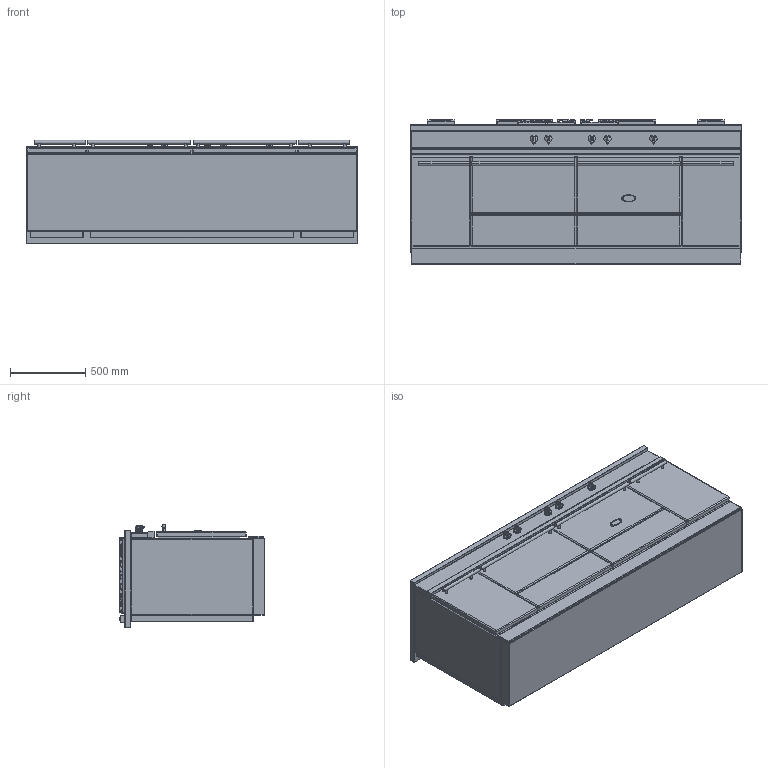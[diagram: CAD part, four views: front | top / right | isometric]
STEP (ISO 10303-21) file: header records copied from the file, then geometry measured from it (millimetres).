
FILE_DESCRIPTION((''),'2;1');
FILE_NAME('LMG2232_ASM','2022-04-13T11:57:26',('stagiaire'),(''),'CREO PARAMETRIC BY PTC INC, 2021424','CREO PARAMETRIC BY PTC INC, 2021424','');
FILE_SCHEMA(('AP203_CONFIGURATION_CONTROLLED_3D_DESIGN_OF_MECHANICAL_PARTS_AND_ASSEMBLIES_MIM_LF { 1 0 10303 403 2 1 2 }'));
Products named in the file (20): BASE_EXPORT_SULLY_LMG2232; 65049009; 65650001; 65064012; 19150009; 88064012_ASM; BASE_EXPORT_SULLY_LMG2232_ASM; TABLE_SULLY_2200_3_FEUX; 5KW; 1_5KW; 3KW; 6537025; 65149005; 90000488_ASM; 6537023; 90000565_ASM; CHEMINEE_2020_LG371_EXPORT_STEP; CHEMINEE_2020_LG182_EXPORT_STEP; TABLE_SULLY_2200_3_FEUX_ASM; LMG2232_ASM
Assembly tree (33 placements, depth 4):
  LMG2232_ASM
    BASE_EXPORT_SULLY_LMG2232_ASM
      BASE_EXPORT_SULLY_LMG2232
      65049009
      65650001
      88064012_ASM  x5
        65064012
        19150009
    TABLE_SULLY_2200_3_FEUX_ASM
      TABLE_SULLY_2200_3_FEUX
      5KW
      1_5KW
      3KW
      90000488_ASM  x2
        6537025
        65149005
      90000565_ASM
        6537023
        65149005  x4
      CHEMINEE_2020_LG371_EXPORT_STEP  x2
      CHEMINEE_2020_LG182_EXPORT_STEP  x2
Bounding box: 2205 x 965 x 688.5 mm (x, y, z)
Volume: 1185973128 mm3; surface area: 16445900.4 mm2
Topology: 40 solids, 40 shells, 5081 faces, 14230 edges, 9115 vertices
Faces by surface type: cylinder 1839, plane 1652, bspline 941, sphere 268, cone 216, torus 143, extrusion 22
Entity records: 142091 total; most frequent: CARTESIAN_POINT 48250, ORIENTED_EDGE 15268, DIRECTION 14099, EDGE_CURVE 7634, AXIS2_PLACEMENT_3D 4756, VERTEX_POINT 4634, VECTOR 4532, LINE 4510
